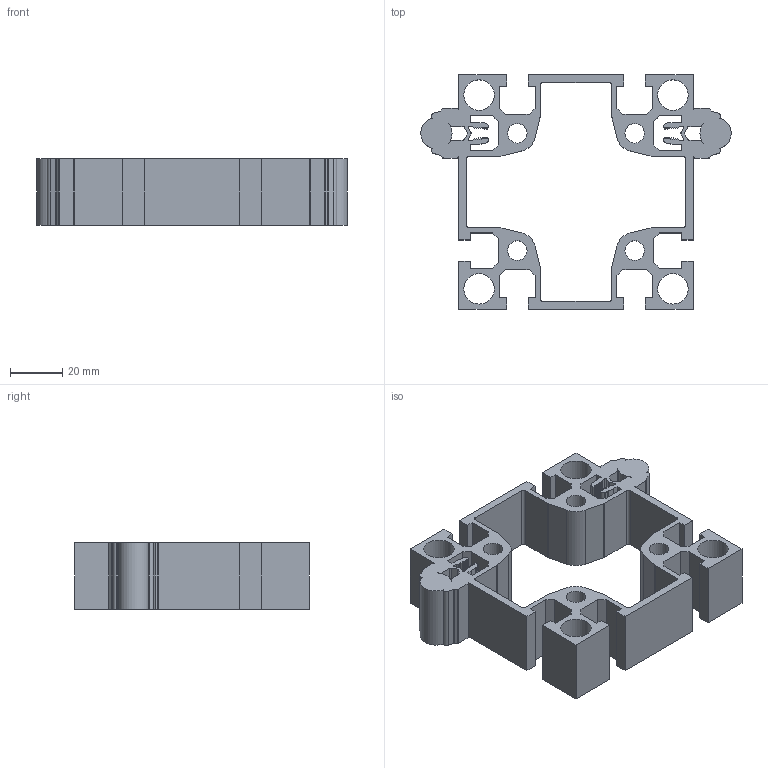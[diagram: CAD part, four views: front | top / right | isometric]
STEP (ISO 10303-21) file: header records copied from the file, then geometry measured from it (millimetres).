
FILE_DESCRIPTION((''),'2;1');
FILE_NAME('C:\Documents and Settings\Administrator\My Documents\Andys Backup Data\STEP LIBRARIES\MINITEC STEP LIBRARIES\READY FOR USE MODULES LR\28.0008 RAIL 90.stp','2008-10-28T13:42:40',('Administrator'),(''),'Autodesk Inventor 2009','Autodesk Inventor 2009','');
FILE_SCHEMA(('AUTOMOTIVE_DESIGN { 1 0 10303 214 1 1 1 1 }'));
Length unit declared in the file: inch
Products named in the file (1): 28.0008 RAIL 90
Bounding box: 118.96 x 90 x 25.4 mm (x, y, z)
Volume: 64137.5 mm3; surface area: 40827.4 mm2
Topology: 1 solids, 1 shells, 354 faces, 1056 edges, 704 vertices
Faces by surface type: plane 218, cylinder 136
Full cylindrical faces by diameter (mm): 7.5 x4, 11.7 x4
Entity records: 11952 total; most frequent: CARTESIAN_POINT 2107, ORIENTED_EDGE 2096, DIRECTION 2030, EDGE_CURVE 1048, VECTOR 776, LINE 776, VERTEX_POINT 704, AXIS2_PLACEMENT_3D 627
